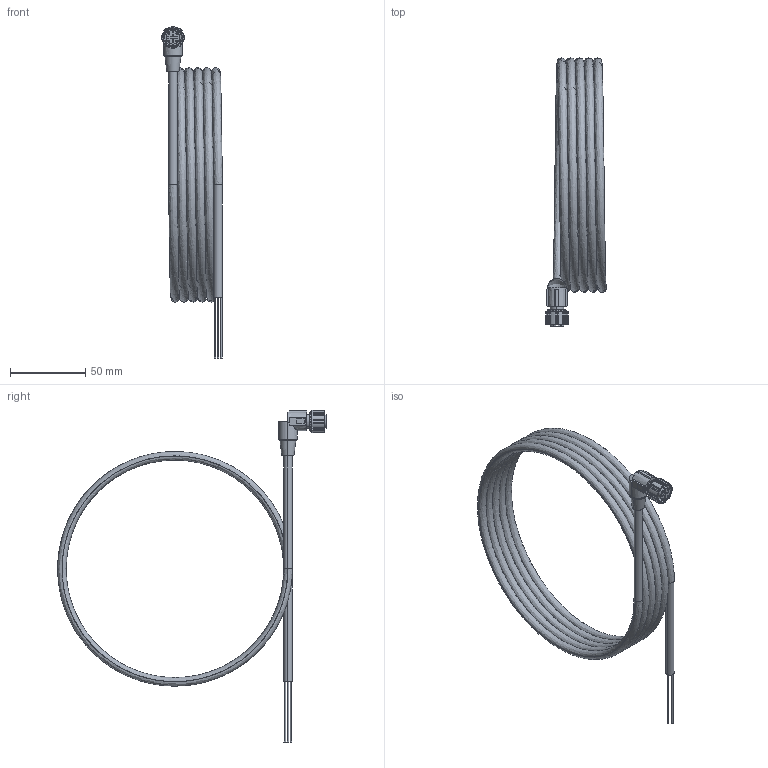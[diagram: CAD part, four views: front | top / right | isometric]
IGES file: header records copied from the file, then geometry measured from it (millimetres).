
Start section: SolidWorks IGES file using analytic representation for surfaces
Global section: file name: C:\Salvar\Planos Compartidos\Regulador de Pres. Prop\Cable-2.IGS; native system: SolidWorks 2021; preprocessor: SolidWorks 2021; author: osval; date: 210212.123855; units: millimetre
Bounding box: 40.33 x 178.35 x 220.48 mm (x, y, z)
Surface area: 48703.7 mm2 (no closed solid volume)
Topology: 0 solids, 0 shells, 151 faces, 1692 edges, 1690 vertices
Faces by surface type: revolution 79, bspline 72
